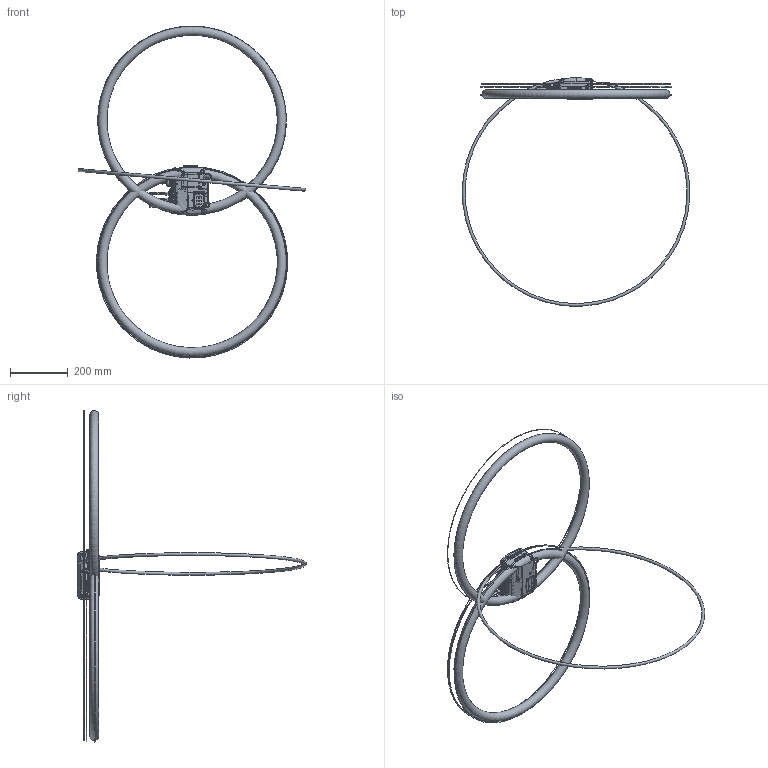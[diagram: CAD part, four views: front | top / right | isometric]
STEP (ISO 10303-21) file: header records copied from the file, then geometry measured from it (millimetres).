
FILE_DESCRIPTION((''),'2;1');
FILE_NAME('CB2P_ASM','2014-06-03T',('user'),(''),'PRO/ENGINEER BY PARAMETRIC TECHNOLOGY CORPORATION, 2008090','PRO/ENGINEER BY PARAMETRIC TECHNOLOGY CORPORATION, 2008090','');
FILE_SCHEMA(('CONFIG_CONTROL_DESIGN'));
Products named in the file (1): CB2P_ASM
Bounding box: 788.26 x 791.71 x 1150.73 mm (x, y, z)
Surface area: 1862966 mm2 (no closed solid volume)
Topology: 0 solids, 0 shells, 2594 faces, 14024 edges, 13836 vertices
Faces by surface type: bspline 2316, torus 258, sphere 20
Entity records: 218486 total; most frequent: CARTESIAN_POINT 96320, DIRECTION 19391, TRIMMED_CURVE 16522, VECTOR 14209, LINE 14209, DEFINITIONAL_REPRESENTATION 13690, PCURVE 13690, COMPOSITE_CURVE_SEGMENT 13690
